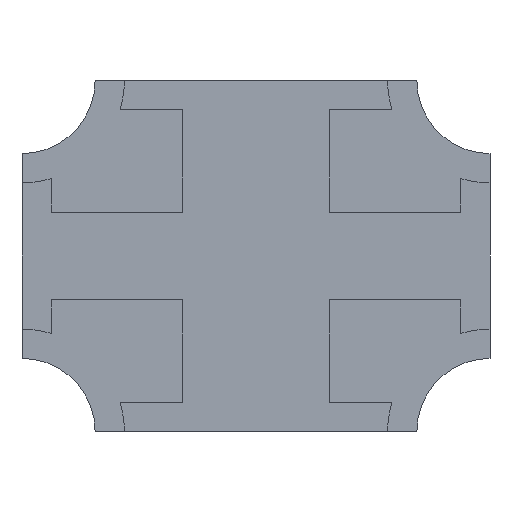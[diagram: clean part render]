
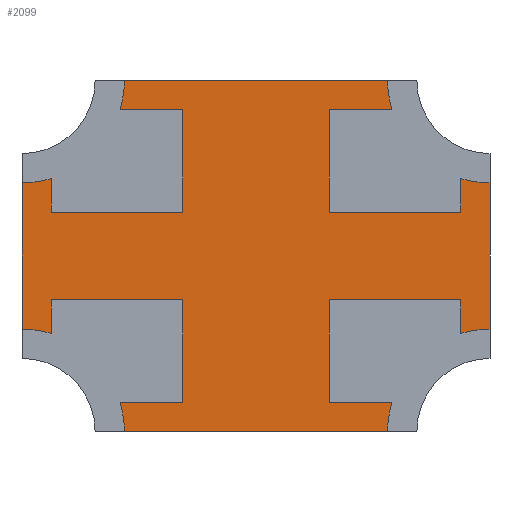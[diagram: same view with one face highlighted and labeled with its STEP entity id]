
A CAD part, front view. The second image highlights one B-rep face of the part: STEP entity #2099.
In plain terms, the highlighted planar face has unit normal (0, -1, 0).
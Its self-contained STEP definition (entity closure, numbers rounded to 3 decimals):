
#1558 = CARTESIAN_POINT ( 'NONE',  ( -0.8, 0.05, -0.35 ) ) ;
#1559 = VERTEX_POINT ( 'NONE', #1558 ) ;
#1560 = CARTESIAN_POINT ( 'NONE',  ( -0.55, 0.05, -0.6 ) ) ;
#1561 = VERTEX_POINT ( 'NONE', #1560 ) ;
#1562 = CARTESIAN_POINT ( 'NONE',  ( -0.8, 0.05, -0.6 ) ) ;
#1563 = DIRECTION ( 'NONE',  ( 0., 1., 0. ) ) ;
#1564 = DIRECTION ( 'NONE',  ( 0., 0., 1. ) ) ;
#1565 = AXIS2_PLACEMENT_3D ( 'NONE', #1562, #1563, #1564 ) ;
#1566 = CIRCLE ( 'NONE', #1565, 0.25) ;
#1567 = EDGE_CURVE ( 'NONE', #1559, #1561, #1566, .T. ) ;
#1822 = CARTESIAN_POINT ( 'NONE',  ( 0.55, 0.05, 0.6 ) ) ;
#1823 = VERTEX_POINT ( 'NONE', #1822 ) ;
#1830 = CARTESIAN_POINT ( 'NONE',  ( 0.8, 0.05, 0.35 ) ) ;
#1831 = VERTEX_POINT ( 'NONE', #1830 ) ;
#1832 = CARTESIAN_POINT ( 'NONE',  ( 0.8, 0.05, 0.6 ) ) ;
#1833 = DIRECTION ( 'NONE',  ( 0., 1., 0. ) ) ;
#1834 = DIRECTION ( 'NONE',  ( 0., 0., 1. ) ) ;
#1835 = AXIS2_PLACEMENT_3D ( 'NONE', #1832, #1833, #1834 ) ;
#1836 = CIRCLE ( 'NONE', #1835, 0.25) ;
#1837 = EDGE_CURVE ( 'NONE', #1831, #1823, #1836, .T. ) ;
#1978 = CARTESIAN_POINT ( 'NONE',  ( 0.8, 0.05, -0.35 ) ) ;
#1979 = VERTEX_POINT ( 'NONE', #1978 ) ;
#1980 = CARTESIAN_POINT ( 'NONE',  ( 0.8, 0.05, 0.6 ) ) ;
#1981 = DIRECTION ( 'NONE',  ( 0., 0., -1. ) ) ;
#1982 = VECTOR ( 'NONE', #1981, 1000. ) ;
#1983 = LINE ( 'NONE', #1980, #1982 ) ;
#1984 = EDGE_CURVE ( 'NONE', #1831, #1979, #1983, .T. ) ;
#2001 = CARTESIAN_POINT ( 'NONE',  ( 0.55, 0.05, -0.6 ) ) ;
#2002 = VERTEX_POINT ( 'NONE', #2001 ) ;
#2009 = CARTESIAN_POINT ( 'NONE',  ( -0.8, 0.05, -0.6 ) ) ;
#2010 = DIRECTION ( 'NONE',  ( -1., 0., 0. ) ) ;
#2011 = VECTOR ( 'NONE', #2010, 1000. ) ;
#2012 = LINE ( 'NONE', #2009, #2011 ) ;
#2013 = EDGE_CURVE ( 'NONE', #2002, #1561, #2012, .T. ) ;
#2024 = CARTESIAN_POINT ( 'NONE',  ( -0.8, 0.05, 0.35 ) ) ;
#2025 = VERTEX_POINT ( 'NONE', #2024 ) ;
#2026 = CARTESIAN_POINT ( 'NONE',  ( -0.8, 0.05, 0.6 ) ) ;
#2027 = DIRECTION ( 'NONE',  ( 0., 0., 1. ) ) ;
#2028 = VECTOR ( 'NONE', #2027, 1000. ) ;
#2029 = LINE ( 'NONE', #2026, #2028 ) ;
#2030 = EDGE_CURVE ( 'NONE', #1559, #2025, #2029, .T. ) ;
#2048 = CARTESIAN_POINT ( 'NONE',  ( -0.55, 0.05, 0.6 ) ) ;
#2049 = VERTEX_POINT ( 'NONE', #2048 ) ;
#2050 = CARTESIAN_POINT ( 'NONE',  ( -0.8, 0.05, 0.6 ) ) ;
#2051 = DIRECTION ( 'NONE',  ( 1., 0., 0. ) ) ;
#2052 = VECTOR ( 'NONE', #2051, 1000. ) ;
#2053 = LINE ( 'NONE', #2050, #2052 ) ;
#2054 = EDGE_CURVE ( 'NONE', #2049, #1823, #2053, .T. ) ;
#2072 = ORIENTED_EDGE ( 'NONE', *, *, #1837, .T. ) ;
#2073 = ORIENTED_EDGE ( 'NONE', *, *, #2054, .F. ) ;
#2074 = CARTESIAN_POINT ( 'NONE',  ( -0.8, 0.05, 0.6 ) ) ;
#2075 = DIRECTION ( 'NONE',  ( 0., 1., 0. ) ) ;
#2076 = DIRECTION ( 'NONE',  ( 0., 0., 1. ) ) ;
#2077 = AXIS2_PLACEMENT_3D ( 'NONE', #2074, #2075, #2076 ) ;
#2078 = CIRCLE ( 'NONE', #2077, 0.25) ;
#2079 = EDGE_CURVE ( 'NONE', #2049, #2025, #2078, .T. ) ;
#2080 = ORIENTED_EDGE ( 'NONE', *, *, #2079, .T. ) ;
#2081 = ORIENTED_EDGE ( 'NONE', *, *, #2030, .F. ) ;
#2082 = ORIENTED_EDGE ( 'NONE', *, *, #1567, .T. ) ;
#2083 = ORIENTED_EDGE ( 'NONE', *, *, #2013, .F. ) ;
#2084 = CARTESIAN_POINT ( 'NONE',  ( 0.8, 0.05, -0.6 ) ) ;
#2085 = DIRECTION ( 'NONE',  ( 0., -1., 0. ) ) ;
#2086 = DIRECTION ( 'NONE',  ( 0., 0., -1. ) ) ;
#2087 = AXIS2_PLACEMENT_3D ( 'NONE', #2084, #2085, #2086 ) ;
#2088 = CIRCLE ( 'NONE', #2087, 0.25) ;
#2089 = EDGE_CURVE ( 'NONE', #1979, #2002, #2088, .T. ) ;
#2090 = ORIENTED_EDGE ( 'NONE', *, *, #2089, .F. ) ;
#2091 = ORIENTED_EDGE ( 'NONE', *, *, #1984, .F. ) ;
#2092 = EDGE_LOOP ( 'NONE', ( #2072, #2073, #2080, #2081, #2082, #2083, #2090, #2091 ) ) ;
#2093 = FACE_OUTER_BOUND ( 'NONE', #2092, .T. ) ;
#2094 = CARTESIAN_POINT ( 'NONE',  ( 0., 0.05, 0. ) ) ;
#2095 = DIRECTION ( 'NONE',  ( 0., -1., 0. ) ) ;
#2096 = DIRECTION ( 'NONE',  ( 0., 0., -1. ) ) ;
#2097 = AXIS2_PLACEMENT_3D ( 'NONE', #2094, #2095, #2096 ) ;
#2098 = PLANE ( 'NONE', #2097 ) ;
#2099 = ADVANCED_FACE ( 'NONE', ( #2093 ), #2098, .T. ) ;
